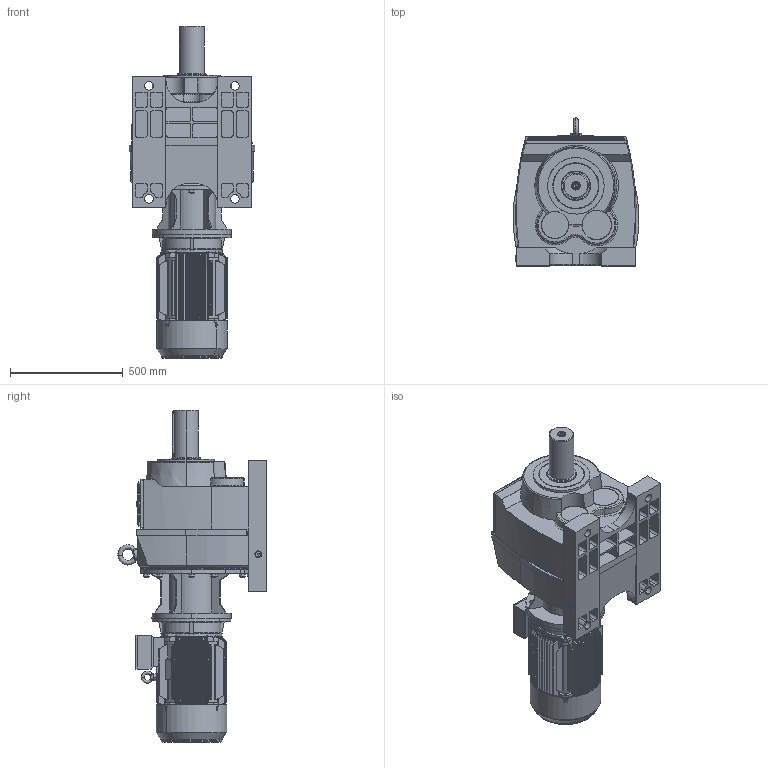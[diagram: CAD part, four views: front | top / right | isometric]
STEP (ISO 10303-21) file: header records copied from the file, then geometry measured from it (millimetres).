
FILE_DESCRIPTION (( 'STEP AP203' ), '1' );
FILE_NAME ('MV872-MV873-M3-160L.STEP', '2019-07-24T08:28:16', ( '' ), ( '' ), 'SwSTEP 2.0', 'SolidWorks 2012', '' );
FILE_SCHEMA (( 'CONFIG_CONTROL_DESIGN' ));
Products named in the file (15): ML8A_Varsayìlan; 83A160B5_Varsayìlan; MN_87_3_0_A-B16_B5_ML8A_0_0_0_0_0_0_0_0_0_0_0_0_M1; M873_Varsayìlan; MV872-MV873-M3-160L; +¦i-MN2-160_-++ñ; M3-160L-FF-B5; Y2-160-2ª¥--®+_-++ñ; Y2-160_shaft; Eyebolts GB_GB_FASTENER_SCREWS_FRS M12N; +ª+§ªiY2-160ñ»ª­_-++ñ; Y2-160-4Ý¾6Ý¾8-ª+---®+_-++ñ; Y2-160L+À+¿(B5)_-++ñ; Y2-160ñ»ª­+¿_-++ñ; Y2-160-180ñ»ª­®+_-++ñ
Assembly tree (14 placements, depth 4):
  MV872-MV873-M3-160L
    MN_87_3_0_A-B16_B5_ML8A_0_0_0_0_0_0_0_0_0_0_0_0_M1
      M873_Varsayìlan
      83A160B5_Varsayìlan
      ML8A_Varsayìlan
    M3-160L-FF-B5
      +ª+§ªiY2-160ñ»ª­_-++ñ
        Y2-160-180ñ»ª­®+_-++ñ
        Y2-160ñ»ª­+¿_-++ñ
      Y2-160-4Ý¾6Ý¾8-ª+---®+_-++ñ
      Y2-160L+À+¿(B5)_-++ñ
      Eyebolts GB_GB_FASTENER_SCREWS_FRS M12N
      Y2-160-2ª¥--®+_-++ñ
      +¦i-MN2-160_-++ñ
      Y2-160_shaft
Bounding box: 557.16 x 657 x 1470 mm (x, y, z)
Volume: 135013427.5 mm3; surface area: 5463548.2 mm2
Topology: 11 solids, 11 shells, 2720 faces, 6958 edges, 4363 vertices
Faces by surface type: plane 929, cylinder 921, cone 477, bspline 290, torus 63, sphere 40
Entity records: 135838 total; most frequent: CARTESIAN_POINT 72568, ORIENTED_EDGE 13816, DIRECTION 11419, EDGE_CURVE 6908, VERTEX_POINT 4348, AXIS2_PLACEMENT_3D 4282, EDGE_LOOP 2986, VECTOR 2855
